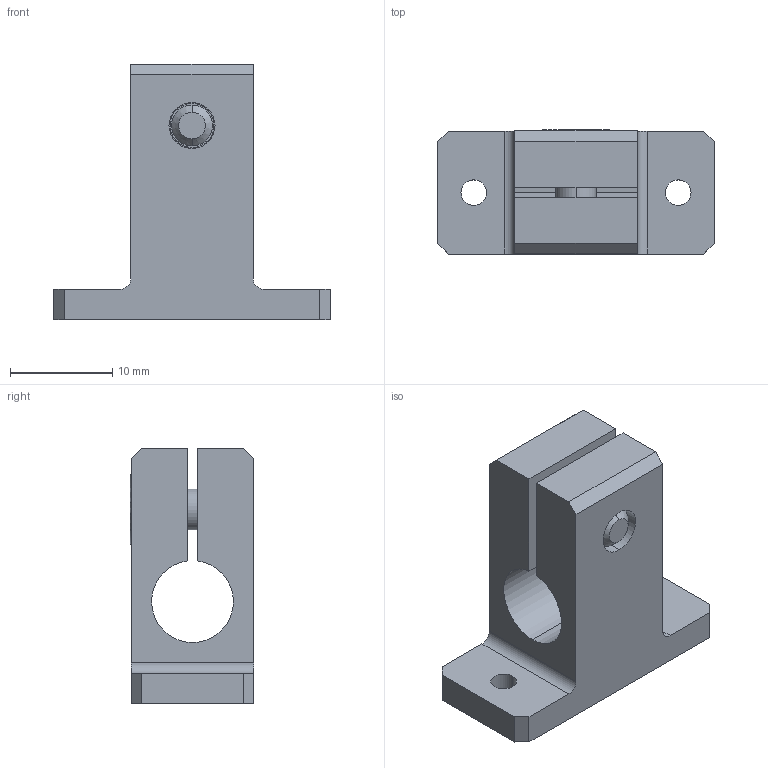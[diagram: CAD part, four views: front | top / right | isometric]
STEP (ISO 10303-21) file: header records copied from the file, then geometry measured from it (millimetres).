
FILE_DESCRIPTION (( 'STEP AP214' ), '1' );
FILE_NAME ('SMBU3-8T.STEP', '2023-01-05T01:55:19', ( 'Windows User' ), ( 'P R C' ), 'SwSTEP 2.0', 'SolidWorks 2018', '' );
FILE_SCHEMA (( 'AUTOMOTIVE_DESIGN' ));
Length unit declared in the file: millimetre
Products named in the file (1): SMBU3-8T
Bounding box: 27 x 12.1 x 25 mm (x, y, z)
Volume: 3276.1 mm3; surface area: 2852.6 mm2
Topology: 3 solids, 3 shells, 248 faces, 711 edges, 470 vertices
Faces by surface type: plane 222, cylinder 22, cone 2, bspline 2
Entity records: 11054 total; most frequent: CARTESIAN_POINT 1554, DIRECTION 1431, ORIENTED_EDGE 1422, EDGE_CURVE 711, VECTOR 477, LINE 477, AXIS2_PLACEMENT_3D 477, VERTEX_POINT 470
